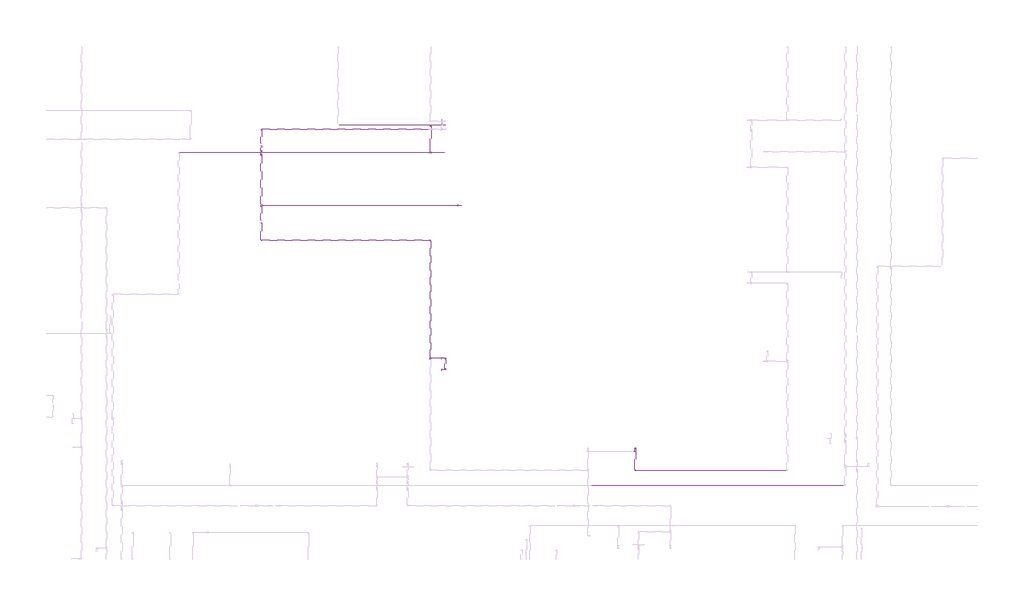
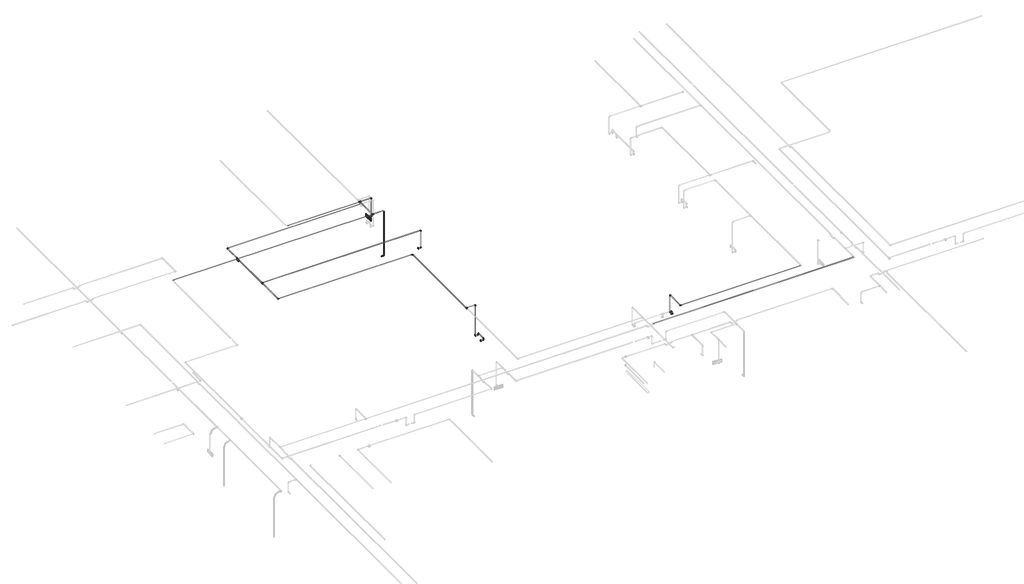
# One storey, part 22 of 40: 36 cable carrier segments, 25 cable carrier fittings, 4 electric appliances, 1 alarm.
"""IFC4 building model written with IfcOpenShell, lengths in millimetres."""

from ifc_helpers import new_model, si_unit, point, frame, frame_2d, origin, place, context, project, spatial, circle_curve, trimmed, segment, composite_curve, outline, extrude, transform, mapped, element, save
from components import alarm_4b7e8fd8, cable_carrier_fitting_69f1a801, cable_carrier_fitting_8404fc2a, cable_carrier_fitting_8fd13dfc, electric_appliance_5961a143

model = new_model("IFC4")

# Units and contexts
model_context = context("Model", 3, world=origin())
ifc_project = project(units=[si_unit("LENGTHUNIT", "METRE", prefix="MILLI")], contexts=[model_context])

# Site, building, storey
site = spatial("IfcSite", under=ifc_project)
building = spatial("IfcBuilding", under=site)
storey = spatial("IfcBuildingStorey", under=building, Name="1 этаж", Elevation=0.0)

# Alarm
placement = place(None, origin())
alarm_shape = alarm_4b7e8fd8(model_context)
element("IfcAlarm", 1, ObjectType="RBZ_Оповещатель_Световой_Рубеж_ОПОП1-R3(грань) : ОПОП 1-R3 \"Выход\"", at=placement, inside=storey, context=model_context, shape_type="MappedRepresentation", body=[
    mapped(alarm_shape, transform((-25412.3240021, 15927.1370105, 2500.0), x_axis=(0.0, -1.0, 0.0), y_axis=(0.0, 0.0, 1.0), z_axis=(-1.0, 0.0, 0.0))),
])

# Cable carrier fittings
cable_carrier_fitting_shape = cable_carrier_fitting_69f1a801(model_context)
element("IfcCableCarrierFitting", 2, ObjectType="ADSK_Поворот_Минимальный размер : Неспецифицируемый", at=placement, inside=storey, context=model_context, shape_type="MappedRepresentation", body=[
    mapped(cable_carrier_fitting_shape, transform((-25315.1241965, 15927.1370105, 2500.0), x_axis=(1.0, 0.0, 0.0), y_axis=(0.0, 0.0, 1.0), z_axis=(0.0, -1.0, 0.0))),
])
element("IfcCableCarrierFitting", 3, ObjectType="ADSK_Поворот_Минимальный размер : Неспецифицируемый", at=placement, inside=storey, context=model_context, shape_type="MappedRepresentation", body=[
    mapped(cable_carrier_fitting_shape, transform((-25315.1241965, 15147.1370105, 1500.0), x_axis=(1.0, 0.0, 0.0), y_axis=(0.0, 0.0, 1.0), z_axis=(0.0, -1.0, 0.0))),
])
element("IfcCableCarrierFitting", 4, ObjectType="ADSK_Поворот_Минимальный размер : Неспецифицируемый", at=placement, inside=storey, context=model_context, shape_type="MappedRepresentation", body=[
    mapped(cable_carrier_fitting_shape, transform((-30532.3240021, 15809.6370105, 3187.0), x_axis=(-1.0, 0.0, 0.0), y_axis=(0.0, -1.0, 0.0), z_axis=(0.0, 0.0, 1.0))),
])
element("IfcCableCarrierFitting", 5, ObjectType="ADSK_Поворот_Минимальный размер : Неспецифицируемый", at=placement, inside=storey, context=model_context, shape_type="MappedRepresentation", body=[
    mapped(cable_carrier_fitting_shape, transform((-30532.3240021, 15100.0328678, 3120.0), x_axis=(0.0, -1.0, 0.0), y_axis=(0.0, 0.0, 1.0), z_axis=(-1.0, 0.0, 0.0))),
])
element("IfcCableCarrierFitting", 6, ObjectType="ADSK_Поворот_Минимальный размер : Неспецифицируемый", at=placement, inside=storey, context=model_context, shape_type="MappedRepresentation", body=[
    mapped(cable_carrier_fitting_shape, transform((-30532.3240021, 15100.0328678, 3187.0), x_axis=(0.0, 0.0, 1.0), y_axis=(0.0, -1.0, 0.0), z_axis=(1.0, 0.0, 0.0))),
])
element("IfcCableCarrierFitting", 7, ObjectType="ADSK_Поворот_Минимальный размер : Неспецифицируемый", at=placement, inside=storey, context=model_context, shape_type="MappedRepresentation", body=[
    mapped(cable_carrier_fitting_shape, transform((-30532.3240021, 15199.8830622, 3120.0), x_axis=(0.0, 1.0, 0.0), y_axis=(0.0, 0.0, 1.0), z_axis=(1.0, 0.0, 0.0))),
])
element("IfcCableCarrierFitting", 8, ObjectType="ADSK_Поворот_Минимальный размер : Неспецифицируемый", at=placement, inside=storey, context=model_context, shape_type="MappedRepresentation", body=[
    mapped(cable_carrier_fitting_shape, transform((-30532.3240021, 15199.8830622, 3187.0), x_axis=(0.0, 0.0, 1.0), y_axis=(0.0, 1.0, 0.0), z_axis=(-1.0, 0.0, 0.0))),
])
element("IfcCableCarrierFitting", 9, ObjectType="ADSK_Поворот_Минимальный размер : Неспецифицируемый", at=placement, inside=storey, context=model_context, shape_type="MappedRepresentation", body=[
    mapped(cable_carrier_fitting_shape, transform((-24858.1241965, 13652.1370105, 2535.0911237), x_axis=(1.0, 0.0, 0.0), y_axis=(0.0, 0.0, 1.0), z_axis=(0.0, -1.0, 0.0))),
])
element("IfcCableCarrierFitting", 10, ObjectType="ADSK_Поворот_Минимальный размер : Неспецифицируемый", at=placement, inside=storey, context=model_context, shape_type="MappedRepresentation", body=[
    mapped(cable_carrier_fitting_shape, transform((-24858.1241965, 13652.1370105, 3187.0), x_axis=(0.0, 0.0, 1.0), y_axis=(-1.0, 0.0, 0.0), z_axis=(0.0, -1.0, 0.0))),
])
element("IfcCableCarrierFitting", 11, ObjectType="ADSK_Поворот_Минимальный размер : Неспецифицируемый", at=placement, inside=storey, context=model_context, shape_type="MappedRepresentation", body=[
    mapped(cable_carrier_fitting_shape, transform((-30532.3240021, 12662.1752277, 3187.0), x_axis=(0.0, -1.0, 0.0), y_axis=(1.0, 0.0, 0.0), z_axis=(0.0, 0.0, 1.0))),
])
element("IfcCableCarrierFitting", 12, ObjectType="ADSK_Поворот_Минимальный размер : Неспецифицируемый", at=placement, inside=storey, context=model_context, shape_type="MappedRepresentation", body=[
    mapped(cable_carrier_fitting_shape, transform((-19932.3240021, 6678.6370105, 2650.0), x_axis=(0.0, 0.0, 1.0), y_axis=(-1.0, 0.0, 0.0), z_axis=(0.0, -1.0, 0.0))),
])
element("IfcCableCarrierFitting", 13, ObjectType="ADSK_Поворот_Минимальный размер : Неспецифицируемый", at=placement, inside=storey, context=model_context, shape_type="MappedRepresentation", body=[
    mapped(cable_carrier_fitting_shape, transform((-19932.3240021, 6778.8368161, 2534.0911237), x_axis=(0.0, 1.0, 0.0), y_axis=(0.0, 0.0, 1.0), z_axis=(1.0, 0.0, 0.0))),
])
element("IfcCableCarrierFitting", 14, ObjectType="ADSK_Поворот_Минимальный размер : Неспецифицируемый", at=placement, inside=storey, context=model_context, shape_type="MappedRepresentation", body=[
    mapped(cable_carrier_fitting_shape, transform((-19932.3240021, 6778.8368161, 3187.0), x_axis=(0.0, 0.0, 1.0), y_axis=(0.0, -1.0, 0.0), z_axis=(1.0, 0.0, 0.0))),
])
element("IfcCableCarrierFitting", 15, ObjectType="ADSK_Поворот_Минимальный размер : Неспецифицируемый", at=placement, inside=storey, context=model_context, shape_type="MappedRepresentation", body=[
    mapped(cable_carrier_fitting_shape, transform((-19932.3240021, 6137.38701, 3187.0), x_axis=(0.0, -1.0, 0.0), y_axis=(1.0, 0.0, 0.0), z_axis=(0.0, 0.0, 1.0))),
])
element("IfcCableCarrierFitting", 16, ObjectType="ADSK_Поворот_Минимальный размер : Неспецифицируемый", at=placement, inside=storey, context=model_context, shape_type="MappedRepresentation", body=[
    mapped(cable_carrier_fitting_shape, transform((-25315.1241965, 9324.1370105, 2028.0911237), x_axis=(1.0, 0.0, 0.0), y_axis=(0.0, 0.0, 1.0), z_axis=(0.0, -1.0, 0.0))),
])
element("IfcCableCarrierFitting", 17, ObjectType="ADSK_Поворот_Минимальный размер : Неспецифицируемый", at=placement, inside=storey, context=model_context, shape_type="MappedRepresentation", body=[
    mapped(cable_carrier_fitting_shape, transform((-25315.1241965, 8997.1780096, 2028.0911237), x_axis=(1.0, 0.0, 0.0), y_axis=(0.0, 0.0, 1.0), z_axis=(0.0, -1.0, 0.0))),
])
element("IfcCableCarrierFitting", 18, ObjectType="ADSK_Поворот_Минимальный размер : Неспецифицируемый", at=placement, inside=storey, context=model_context, shape_type="MappedRepresentation", body=[
    mapped(cable_carrier_fitting_shape, transform((-25315.1241965, 8997.1780096, 2100.0), x_axis=(0.0, 0.0, 1.0), y_axis=(-0.019499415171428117, 0.99980986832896, 0.0), z_axis=(-0.99980986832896, -0.019499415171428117, 0.0))),
])
element("IfcCableCarrierFitting", 19, ObjectType="ADSK_Поворот_Минимальный размер : Неспецифицируемый", at=placement, inside=storey, context=model_context, shape_type="MappedRepresentation", body=[
    mapped(cable_carrier_fitting_shape, transform((-25315.1241965, 9324.1370105, 2100.0), x_axis=(0.0, 0.0, 1.0), y_axis=(0.01949941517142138, -0.9998098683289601, 0.0), z_axis=(0.9998098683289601, 0.01949941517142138, 0.0))),
])
element("IfcCableCarrierFitting", 20, ObjectType="ADSK_Поворот_Минимальный размер : Неспецифицируемый", at=placement, inside=storey, context=model_context, shape_type="MappedRepresentation", body=[
    mapped(cable_carrier_fitting_shape, transform((-25415.3240021, 9324.1370105, 3187.0), x_axis=(0.0, 0.0, 1.0), y_axis=(-1.0, 0.0, 0.0), z_axis=(0.0, -1.0, 0.0))),
])
element("IfcCableCarrierFitting", 21, ObjectType="ADSK_Поворот_Минимальный размер : Неспецифицируемый", at=placement, inside=storey, context=model_context, shape_type="MappedRepresentation", body=[
    mapped(cable_carrier_fitting_shape, transform((-25737.3231226, 12662.1752277, 3187.0), x_axis=(0.0, 1.0, 0.0), y_axis=(-1.0, 0.0, 0.0), z_axis=(0.0, 0.0, 1.0))),
])
cable_carrier_fitting_2_shape = cable_carrier_fitting_8404fc2a(model_context)
element("IfcCableCarrierFitting", 22, ObjectType="ADSK_Поворот_Минимальный размер : Неспецифицируемый", at=placement, inside=storey, context=model_context, shape_type="MappedRepresentation", body=[
    mapped(cable_carrier_fitting_2_shape, transform((-25315.1241965, 15927.1370105, 3190.000908), x_axis=(0.0, 0.0, 1.0), y_axis=(-1.0, 0.0, 0.0), z_axis=(0.0, -1.0, 0.0))),
])
cable_carrier_fitting_3_shape = cable_carrier_fitting_8fd13dfc(model_context)
element("IfcCableCarrierFitting", 23, ObjectType="ADSK_Тройник : ПВХ", at=placement, inside=storey, context=model_context, shape_type="MappedRepresentation", body=[
    mapped(cable_carrier_fitting_3_shape, transform((-25727.3240021, 15147.1369864, 3189.9843831), x_axis=(-1.0, 0.0, 0.0), y_axis=(0.0, -1.0, 0.0), z_axis=(0.0, 0.0, 1.0))),
])
element("IfcCableCarrierFitting", 24, ObjectType="ADSK_Тройник : ПВХ", at=placement, inside=storey, context=model_context, shape_type="MappedRepresentation", body=[
    mapped(cable_carrier_fitting_3_shape, transform((-25727.3240021, 15927.1370105, 3189.9843831), x_axis=(1.0, 0.0, 0.0), y_axis=(0.0, 1.0, 0.0), z_axis=(0.0, 0.0, 1.0))),
])
element("IfcCableCarrierFitting", 25, ObjectType="ADSK_Тройник : ПВХ", at=placement, inside=storey, context=model_context, shape_type="MappedRepresentation", body=[
    mapped(cable_carrier_fitting_3_shape, transform((-30532.3240021, 13652.1370105, 3187.0), x_axis=(0.0, 1.0, 0.0), y_axis=(-1.0, 0.0, 0.0), z_axis=(0.0, 0.0, 1.0))),
])
element("IfcCableCarrierFitting", 26, ObjectType="ADSK_Тройник : ПВХ", at=placement, inside=storey, context=model_context, shape_type="MappedRepresentation", body=[
    mapped(cable_carrier_fitting_3_shape, transform((-25737.3231226, 9324.1370105, 3187.0), x_axis=(0.0, 1.0, 0.0), y_axis=(-1.0, 0.0, 0.0), z_axis=(0.0, 0.0, 1.0))),
])

# Cable carrier segments
element("IfcCableCarrierSegment", 27, ObjectType="Гофрированная труба", at=placement, inside=storey, context=model_context, shape_type="SweptSolid", body=[
    extrude(outline(composite_curve([segment(trimmed(circle_curve(frame_2d((15927.1370105, 3189.9843831)), 10.0), [point((15937.1370105, 3189.9843831))], [point((15927.1370105, 3179.9843831))], False, "CARTESIAN"), True, "CONTINUOUS"), segment(trimmed(circle_curve(frame_2d((15927.1370105, 3189.9843831)), 10.0), [point((15927.1370105, 3179.9843831))], [point((15917.1370105, 3189.9843831))], False, "CARTESIAN"), True, "CONTINUOUS"), segment(trimmed(circle_curve(frame_2d((15927.1370105, 3189.9843831)), 10.0), [point((15917.1370105, 3189.9843831))], [point((15927.1370105, 3199.9843831))], False, "CARTESIAN"), True, "CONTINUOUS"), segment(trimmed(circle_curve(frame_2d((15927.1370105, 3189.9843831)), 10.0), [point((15927.1370105, 3199.9843831))], [point((15937.1370105, 3189.9843831))], False, "CARTESIAN"), True, "CONTINUOUS")], self_intersect=False)), frame((-28305.8240021, 0.0, 0.0), z_axis=(1.0, 0.0, 0.0), x_axis=(0.0, 1.0, 0.0)), (0.0, 0.0, 1.0), 2548.5),
])
element("IfcCableCarrierSegment", 28, ObjectType="Гофрированная труба", at=placement, inside=storey, context=model_context, shape_type="SweptSolid", body=[
    extrude(outline(composite_curve([segment(trimmed(circle_curve(frame_2d((3189.9843831, -25727.3240021)), 10.0), [point((3189.9843831, -25737.3240021))], [point((3179.9843831, -25727.3240021))], False, "CARTESIAN"), True, "CONTINUOUS"), segment(trimmed(circle_curve(frame_2d((3189.9843831, -25727.3240021)), 10.0), [point((3179.9843831, -25727.3240021))], [point((3189.9843831, -25717.3240021))], False, "CARTESIAN"), True, "CONTINUOUS"), segment(trimmed(circle_curve(frame_2d((3189.9843831, -25727.3240021)), 10.0), [point((3189.9843831, -25717.3240021))], [point((3199.9843831, -25727.3240021))], False, "CARTESIAN"), True, "CONTINUOUS"), segment(trimmed(circle_curve(frame_2d((3189.9843831, -25727.3240021)), 10.0), [point((3199.9843831, -25727.3240021))], [point((3189.9843831, -25737.3240021))], False, "CARTESIAN"), True, "CONTINUOUS")], self_intersect=False)), frame((0.0, 15177.1369864, 0.0), z_axis=(0.0, 1.0, 0.0), x_axis=(0.0, 0.0, 1.0)), (0.0, 0.0, 1.0), 720.0000241),
])
element("IfcCableCarrierSegment", 29, ObjectType="Гофрированная труба", at=placement, inside=storey, context=model_context, shape_type="SweptSolid", body=[
    extrude(outline(composite_curve([segment(trimmed(circle_curve(frame_2d((15147.1369864, 3189.9843831)), 10.0), [point((15157.1369864, 3189.9843831))], [point((15147.1369864, 3179.9843831))], False, "CARTESIAN"), True, "CONTINUOUS"), segment(trimmed(circle_curve(frame_2d((15147.1369864, 3189.9843831)), 10.0), [point((15147.1369864, 3179.9843831))], [point((15137.1369864, 3189.9843831))], False, "CARTESIAN"), True, "CONTINUOUS"), segment(trimmed(circle_curve(frame_2d((15147.1369864, 3189.9843831)), 10.0), [point((15137.1369864, 3189.9843831))], [point((15147.1369864, 3199.9843831))], False, "CARTESIAN"), True, "CONTINUOUS"), segment(trimmed(circle_curve(frame_2d((15147.1369864, 3189.9843831)), 10.0), [point((15147.1369864, 3199.9843831))], [point((15157.1369864, 3189.9843831))], False, "CARTESIAN"), True, "CONTINUOUS")], self_intersect=False)), frame((-32846.3240048, 0.0, 0.0), z_axis=(1.0, 0.0, 0.0), x_axis=(0.0, 1.0, 0.0)), (0.0, 0.0, 1.0), 7089.0000027),
])
element("IfcCableCarrierSegment", 30, ObjectType="Гофрированная труба", at=placement, inside=storey, context=model_context, shape_type="SweptSolid", body=[
    extrude(outline(composite_curve([segment(trimmed(circle_curve(frame_2d((0.0, 10.0)), 10.0), [point((-10.0, 10.0))], [point((0.0, 20.0))], False, "CARTESIAN"), True, "CONTINUOUS"), segment(trimmed(circle_curve(frame_2d((0.0, 10.0)), 10.0), [point((0.0, 20.0))], [point((10.0, 10.0))], False, "CARTESIAN"), True, "CONTINUOUS"), segment(trimmed(circle_curve(frame_2d((0.0, 10.0)), 10.0), [point((10.0, 10.0))], [point((0.0, 0.0))], False, "CARTESIAN"), True, "CONTINUOUS"), segment(trimmed(circle_curve(frame_2d((0.0, 10.0)), 10.0), [point((0.0, 0.0))], [point((-10.0, 10.0))], False, "CARTESIAN"), True, "CONTINUOUS")], self_intersect=False)), frame((-25697.3235697, 15927.1370105, 3179.9843831), z_axis=(0.9999999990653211, 0.0, 4.3236071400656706e-05), x_axis=(0.0, 1.0, 0.0)), (0.0, 0.0, 1.0), 361.1989412),
])
element("IfcCableCarrierSegment", 31, ObjectType="Гофрированная труба", at=placement, inside=storey, context=model_context, shape_type="SweptSolid", body=[
    extrude(outline(composite_curve([segment(trimmed(circle_curve(frame_2d((15927.1370105, 2500.0)), 10.0), [point((15917.1370105, 2500.0))], [point((15927.1370105, 2510.0))], False, "CARTESIAN"), True, "CONTINUOUS"), segment(trimmed(circle_curve(frame_2d((15927.1370105, 2500.0)), 10.0), [point((15927.1370105, 2510.0))], [point((15937.1370105, 2500.0))], False, "CARTESIAN"), True, "CONTINUOUS"), segment(trimmed(circle_curve(frame_2d((15927.1370105, 2500.0)), 10.0), [point((15937.1370105, 2500.0))], [point((15927.1370105, 2490.0))], False, "CARTESIAN"), True, "CONTINUOUS"), segment(trimmed(circle_curve(frame_2d((15927.1370105, 2500.0)), 10.0), [point((15927.1370105, 2490.0))], [point((15917.1370105, 2500.0))], False, "CARTESIAN"), True, "CONTINUOUS")], self_intersect=False)), frame((-25412.3240021, 0.0, 0.0), z_axis=(1.0, 0.0, 0.0), x_axis=(0.0, 1.0, 0.0)), (0.0, 0.0, 1.0), 76.1998056),
])
element("IfcCableCarrierSegment", 32, ObjectType="Гофрированная труба", at=placement, inside=storey, context=model_context, shape_type="SweptSolid", body=[
    extrude(outline(composite_curve([segment(trimmed(circle_curve(frame_2d((-25315.1241965, 15927.1370105)), 10.0), [point((-25325.1241965, 15927.1370105))], [point((-25315.1241965, 15937.1370105))], False, "CARTESIAN"), True, "CONTINUOUS"), segment(trimmed(circle_curve(frame_2d((-25315.1241965, 15927.1370105)), 10.0), [point((-25315.1241965, 15937.1370105))], [point((-25305.1241965, 15927.1370105))], False, "CARTESIAN"), True, "CONTINUOUS"), segment(trimmed(circle_curve(frame_2d((-25315.1241965, 15927.1370105)), 10.0), [point((-25305.1241965, 15927.1370105))], [point((-25315.1241965, 15917.1370105))], False, "CARTESIAN"), True, "CONTINUOUS"), segment(trimmed(circle_curve(frame_2d((-25315.1241965, 15927.1370105)), 10.0), [point((-25315.1241965, 15917.1370105))], [point((-25325.1241965, 15927.1370105))], False, "CARTESIAN"), True, "CONTINUOUS")], self_intersect=False)), frame((0.0, 0.0, 2521.0), z_axis=(0.0, 0.0, 1.0), x_axis=(1.0, 0.0, 0.0)), (0.0, 0.0, 1.0), 648.0000432),
])
element("IfcCableCarrierSegment", 33, ObjectType="Гофрированная труба", at=placement, inside=storey, context=model_context, shape_type="SweptSolid", body=[
    extrude(outline(composite_curve([segment(trimmed(circle_curve(frame_2d((0.0, 10.0)), 10.0), [point((-10.0, 10.0))], [point((0.0, 20.0))], False, "CARTESIAN"), True, "CONTINUOUS"), segment(trimmed(circle_curve(frame_2d((0.0, 10.0)), 10.0), [point((0.0, 20.0))], [point((10.0, 10.0))], False, "CARTESIAN"), True, "CONTINUOUS"), segment(trimmed(circle_curve(frame_2d((0.0, 10.0)), 10.0), [point((10.0, 10.0))], [point((0.0, 0.0))], False, "CARTESIAN"), True, "CONTINUOUS"), segment(trimmed(circle_curve(frame_2d((0.0, 10.0)), 10.0), [point((0.0, 0.0))], [point((-10.0, 10.0))], False, "CARTESIAN"), True, "CONTINUOUS")], self_intersect=False)), frame((-25697.3235697, 15147.1369864, 3179.9843831), z_axis=(0.9999999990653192, 6.229485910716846e-08, 4.323607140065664e-05), x_axis=(-6.229485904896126e-08, 0.9999999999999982, -2.692956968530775e-12)), (0.0, 0.0, 1.0), 361.1989412),
])
element("IfcCableCarrierSegment", 34, ObjectType="Гофрированная труба", at=placement, inside=storey, context=model_context, shape_type="SweptSolid", body=[
    extrude(outline(composite_curve([segment(trimmed(circle_curve(frame_2d((15147.1370105, 1500.0)), 10.0), [point((15137.1370105, 1500.0))], [point((15147.1370105, 1510.0))], False, "CARTESIAN"), True, "CONTINUOUS"), segment(trimmed(circle_curve(frame_2d((15147.1370105, 1500.0)), 10.0), [point((15147.1370105, 1510.0))], [point((15157.1370105, 1500.0))], False, "CARTESIAN"), True, "CONTINUOUS"), segment(trimmed(circle_curve(frame_2d((15147.1370105, 1500.0)), 10.0), [point((15157.1370105, 1500.0))], [point((15147.1370105, 1490.0))], False, "CARTESIAN"), True, "CONTINUOUS"), segment(trimmed(circle_curve(frame_2d((15147.1370105, 1500.0)), 10.0), [point((15147.1370105, 1490.0))], [point((15137.1370105, 1500.0))], False, "CARTESIAN"), True, "CONTINUOUS")], self_intersect=False)), frame((-25412.3240021, 0.0, 0.0), z_axis=(1.0, 0.0, 0.0), x_axis=(0.0, 1.0, 0.0)), (0.0, 0.0, 1.0), 76.1998056),
])
element("IfcCableCarrierSegment", 35, ObjectType="Гофрированная труба", at=placement, inside=storey, context=model_context, shape_type="SweptSolid", body=[
    extrude(outline(composite_curve([segment(trimmed(circle_curve(frame_2d((0.0, 10.0)), 10.0), [point((-10.0, 10.0))], [point((0.0, 20.0))], False, "CARTESIAN"), True, "CONTINUOUS"), segment(trimmed(circle_curve(frame_2d((0.0, 10.0)), 10.0), [point((0.0, 20.0))], [point((10.0, 10.0))], False, "CARTESIAN"), True, "CONTINUOUS"), segment(trimmed(circle_curve(frame_2d((0.0, 10.0)), 10.0), [point((10.0, 10.0))], [point((0.0, 0.0))], False, "CARTESIAN"), True, "CONTINUOUS"), segment(trimmed(circle_curve(frame_2d((0.0, 10.0)), 10.0), [point((0.0, 0.0))], [point((-10.0, 10.0))], False, "CARTESIAN"), True, "CONTINUOUS")], self_intersect=False)), frame((-25315.1241965, 15137.1370105, 1521.0), z_axis=(0.0, -1.824901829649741e-10, 1.0), x_axis=(1.0, 0.0, 0.0)), (0.0, 0.0, 1.0), 1648.0000432),
])
element("IfcCableCarrierSegment", 36, ObjectType="Гофрированная труба", at=placement, inside=storey, context=model_context, shape_type="SweptSolid", body=[
    extrude(outline(composite_curve([segment(trimmed(circle_curve(frame_2d((15809.6370105, 3187.0)), 10.0), [point((15799.6370105, 3187.0))], [point((15809.6370105, 3197.0))], False, "CARTESIAN"), True, "CONTINUOUS"), segment(trimmed(circle_curve(frame_2d((15809.6370105, 3187.0)), 10.0), [point((15809.6370105, 3197.0))], [point((15819.6370105, 3187.0))], False, "CARTESIAN"), True, "CONTINUOUS"), segment(trimmed(circle_curve(frame_2d((15809.6370105, 3187.0)), 10.0), [point((15819.6370105, 3187.0))], [point((15809.6370105, 3177.0))], False, "CARTESIAN"), True, "CONTINUOUS"), segment(trimmed(circle_curve(frame_2d((15809.6370105, 3187.0)), 10.0), [point((15809.6370105, 3177.0))], [point((15799.6370105, 3187.0))], False, "CARTESIAN"), True, "CONTINUOUS")], self_intersect=False)), frame((-30511.3240021, 0.0, 0.0), z_axis=(1.0, 0.0, 0.0), x_axis=(0.0, 1.0, 0.0)), (0.0, 0.0, 1.0), 4727.6998056),
])
element("IfcCableCarrierSegment", 37, ObjectType="Гофрированная труба", at=placement, inside=storey, context=model_context, shape_type="SweptSolid", body=[
    extrude(outline(composite_curve([segment(trimmed(circle_curve(frame_2d((3187.0, -30532.3240021)), 10.0), [point((3187.0, -30522.3240021))], [point((3197.0, -30532.3240021))], False, "CARTESIAN"), True, "CONTINUOUS"), segment(trimmed(circle_curve(frame_2d((3187.0, -30532.3240021)), 10.0), [point((3197.0, -30532.3240021))], [point((3187.0, -30542.3240021))], False, "CARTESIAN"), True, "CONTINUOUS"), segment(trimmed(circle_curve(frame_2d((3187.0, -30532.3240021)), 10.0), [point((3187.0, -30542.3240021))], [point((3177.0, -30532.3240021))], False, "CARTESIAN"), True, "CONTINUOUS"), segment(trimmed(circle_curve(frame_2d((3187.0, -30532.3240021)), 10.0), [point((3177.0, -30532.3240021))], [point((3187.0, -30522.3240021))], False, "CARTESIAN"), True, "CONTINUOUS")], self_intersect=False)), frame((0.0, 15409.9946506, 0.0), z_axis=(0.0, 1.0, 0.0), x_axis=(0.0, 0.0, 1.0)), (0.0, 0.0, 1.0), 378.6423599),
])
element("IfcCableCarrierSegment", 38, ObjectType="Гофрированная труба", at=placement, inside=storey, context=model_context, shape_type="SweptSolid", body=[
    extrude(outline(composite_curve([segment(trimmed(circle_curve(frame_2d((3120.0, -30532.3240021)), 10.0), [point((3120.0, -30542.3240021))], [point((3110.0, -30532.3240021))], False, "CARTESIAN"), True, "CONTINUOUS"), segment(trimmed(circle_curve(frame_2d((3120.0, -30532.3240021)), 10.0), [point((3110.0, -30532.3240021))], [point((3120.0, -30522.3240021))], False, "CARTESIAN"), True, "CONTINUOUS"), segment(trimmed(circle_curve(frame_2d((3120.0, -30532.3240021)), 10.0), [point((3120.0, -30522.3240021))], [point((3130.0, -30532.3240021))], False, "CARTESIAN"), True, "CONTINUOUS"), segment(trimmed(circle_curve(frame_2d((3120.0, -30532.3240021)), 10.0), [point((3130.0, -30532.3240021))], [point((3120.0, -30542.3240021))], False, "CARTESIAN"), True, "CONTINUOUS")], self_intersect=False)), frame((0.0, 15121.0328678, 0.0), z_axis=(0.0, 1.0, 0.0), x_axis=(0.0, 0.0, 1.0)), (0.0, 0.0, 1.0), 57.8501944),
])
element("IfcCableCarrierSegment", 39, ObjectType="Гофрированная труба", at=placement, inside=storey, context=model_context, shape_type="SweptSolid", body=[
    extrude(outline(composite_curve([segment(trimmed(circle_curve(frame_2d((3187.0, -30532.3240021)), 10.0), [point((3187.0, -30542.3240021))], [point((3177.0, -30532.3240021))], False, "CARTESIAN"), True, "CONTINUOUS"), segment(trimmed(circle_curve(frame_2d((3187.0, -30532.3240021)), 10.0), [point((3177.0, -30532.3240021))], [point((3187.0, -30522.3240021))], False, "CARTESIAN"), True, "CONTINUOUS"), segment(trimmed(circle_curve(frame_2d((3187.0, -30532.3240021)), 10.0), [point((3187.0, -30522.3240021))], [point((3197.0, -30532.3240021))], False, "CARTESIAN"), True, "CONTINUOUS"), segment(trimmed(circle_curve(frame_2d((3187.0, -30532.3240021)), 10.0), [point((3197.0, -30532.3240021))], [point((3187.0, -30542.3240021))], False, "CARTESIAN"), True, "CONTINUOUS")], self_intersect=False)), frame((0.0, 13227.1370105, 0.0), z_axis=(0.0, 1.0, 0.0), x_axis=(0.0, 0.0, 1.0)), (0.0, 0.0, 1.0), 395.0),
])
element("IfcCableCarrierSegment", 40, ObjectType="Гофрированная труба", at=placement, inside=storey, context=model_context, shape_type="SweptSolid", body=[
    extrude(outline(composite_curve([segment(trimmed(circle_curve(frame_2d((0.0, 10.0)), 10.0), [point((-10.0, 10.0))], [point((0.0, 20.0))], False, "CARTESIAN"), True, "CONTINUOUS"), segment(trimmed(circle_curve(frame_2d((0.0, 10.0)), 10.0), [point((0.0, 20.0))], [point((10.0, 10.0))], False, "CARTESIAN"), True, "CONTINUOUS"), segment(trimmed(circle_curve(frame_2d((0.0, 10.0)), 10.0), [point((10.0, 10.0))], [point((0.0, 0.0))], False, "CARTESIAN"), True, "CONTINUOUS"), segment(trimmed(circle_curve(frame_2d((0.0, 10.0)), 10.0), [point((0.0, 0.0))], [point((-10.0, 10.0))], False, "CARTESIAN"), True, "CONTINUOUS")], self_intersect=False)), frame((-30532.3240021, 15090.0328678, 3141.0), z_axis=(0.0, 1.0287237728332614e-12, 1.0), x_axis=(1.0, 0.0, 0.0)), (0.0, 0.0, 1.0), 25.0),
])
element("IfcCableCarrierSegment", 41, ObjectType="Гофрированная труба", at=placement, inside=storey, context=model_context, shape_type="SweptSolid", body=[
    extrude(outline(composite_curve([segment(trimmed(circle_curve(frame_2d((3187.0, -30532.3240021)), 10.0), [point((3187.0, -30522.3240021))], [point((3197.0, -30532.3240021))], False, "CARTESIAN"), True, "CONTINUOUS"), segment(trimmed(circle_curve(frame_2d((3187.0, -30532.3240021)), 10.0), [point((3197.0, -30532.3240021))], [point((3187.0, -30542.3240021))], False, "CARTESIAN"), True, "CONTINUOUS"), segment(trimmed(circle_curve(frame_2d((3187.0, -30532.3240021)), 10.0), [point((3187.0, -30542.3240021))], [point((3177.0, -30532.3240021))], False, "CARTESIAN"), True, "CONTINUOUS"), segment(trimmed(circle_curve(frame_2d((3187.0, -30532.3240021)), 10.0), [point((3177.0, -30532.3240021))], [point((3187.0, -30522.3240021))], False, "CARTESIAN"), True, "CONTINUOUS")], self_intersect=False)), frame((0.0, 15220.8830622, 0.0), z_axis=(0.0, 1.0, 0.0), x_axis=(0.0, 0.0, 1.0)), (0.0, 0.0, 1.0), 124.1498056),
])
element("IfcCableCarrierSegment", 42, ObjectType="Гофрированная труба", at=placement, inside=storey, context=model_context, shape_type="SweptSolid", body=[
    extrude(outline(composite_curve([segment(trimmed(circle_curve(frame_2d((-30532.3240021, 15199.8830622)), 10.0), [point((-30542.3240021, 15199.8830622))], [point((-30532.3240021, 15209.8830622))], False, "CARTESIAN"), True, "CONTINUOUS"), segment(trimmed(circle_curve(frame_2d((-30532.3240021, 15199.8830622)), 10.0), [point((-30532.3240021, 15209.8830622))], [point((-30522.3240021, 15199.8830622))], False, "CARTESIAN"), True, "CONTINUOUS"), segment(trimmed(circle_curve(frame_2d((-30532.3240021, 15199.8830622)), 10.0), [point((-30522.3240021, 15199.8830622))], [point((-30532.3240021, 15189.8830622))], False, "CARTESIAN"), True, "CONTINUOUS"), segment(trimmed(circle_curve(frame_2d((-30532.3240021, 15199.8830622)), 10.0), [point((-30532.3240021, 15189.8830622))], [point((-30542.3240021, 15199.8830622))], False, "CARTESIAN"), True, "CONTINUOUS")], self_intersect=False)), frame((0.0, 0.0, 3141.0), z_axis=(0.0, 0.0, 1.0), x_axis=(1.0, 0.0, 0.0)), (0.0, 0.0, 1.0), 25.0),
])
element("IfcCableCarrierSegment", 43, ObjectType="Гофрированная труба", at=placement, inside=storey, context=model_context, shape_type="SweptSolid", body=[
    extrude(outline(composite_curve([segment(trimmed(circle_curve(frame_2d((3187.0, -30532.3240021)), 10.0), [point((3187.0, -30542.3240021))], [point((3177.0, -30532.3240021))], False, "CARTESIAN"), True, "CONTINUOUS"), segment(trimmed(circle_curve(frame_2d((3187.0, -30532.3240021)), 10.0), [point((3177.0, -30532.3240021))], [point((3187.0, -30522.3240021))], False, "CARTESIAN"), True, "CONTINUOUS"), segment(trimmed(circle_curve(frame_2d((3187.0, -30532.3240021)), 10.0), [point((3187.0, -30522.3240021))], [point((3197.0, -30532.3240021))], False, "CARTESIAN"), True, "CONTINUOUS"), segment(trimmed(circle_curve(frame_2d((3187.0, -30532.3240021)), 10.0), [point((3197.0, -30532.3240021))], [point((3187.0, -30542.3240021))], False, "CARTESIAN"), True, "CONTINUOUS")], self_intersect=False)), frame((0.0, 12683.1752277, 0.0), z_axis=(0.0, 1.0, 0.0), x_axis=(0.0, 0.0, 1.0)), (0.0, 0.0, 1.0), 479.0),
])
element("IfcCableCarrierSegment", 44, ObjectType="Гофрированная труба", at=placement, inside=storey, context=model_context, shape_type="SweptSolid", body=[
    extrude(outline(composite_curve([segment(trimmed(circle_curve(frame_2d((13652.1370105, 3187.0)), 10.0), [point((13642.1370105, 3187.0))], [point((13652.1370105, 3197.0))], False, "CARTESIAN"), True, "CONTINUOUS"), segment(trimmed(circle_curve(frame_2d((13652.1370105, 3187.0)), 10.0), [point((13652.1370105, 3197.0))], [point((13662.1370105, 3187.0))], False, "CARTESIAN"), True, "CONTINUOUS"), segment(trimmed(circle_curve(frame_2d((13652.1370105, 3187.0)), 10.0), [point((13662.1370105, 3187.0))], [point((13652.1370105, 3177.0))], False, "CARTESIAN"), True, "CONTINUOUS"), segment(trimmed(circle_curve(frame_2d((13652.1370105, 3187.0)), 10.0), [point((13652.1370105, 3177.0))], [point((13642.1370105, 3187.0))], False, "CARTESIAN"), True, "CONTINUOUS")], self_intersect=False)), frame((-30502.3240021, 0.0, 0.0), z_axis=(1.0, 0.0, 0.0), x_axis=(0.0, 1.0, 0.0)), (0.0, 0.0, 1.0), 5623.1998056),
])
element("IfcCableCarrierSegment", 45, ObjectType="Гофрированная труба", at=placement, inside=storey, context=model_context, shape_type="SweptSolid", body=[
    extrude(outline(composite_curve([segment(trimmed(circle_curve(frame_2d((13652.1370105, 2535.0911237)), 10.0), [point((13642.1370105, 2535.0911237))], [point((13652.1370105, 2545.0911237))], False, "CARTESIAN"), True, "CONTINUOUS"), segment(trimmed(circle_curve(frame_2d((13652.1370105, 2535.0911237)), 10.0), [point((13652.1370105, 2545.0911237))], [point((13662.1370105, 2535.0911237))], False, "CARTESIAN"), True, "CONTINUOUS"), segment(trimmed(circle_curve(frame_2d((13652.1370105, 2535.0911237)), 10.0), [point((13662.1370105, 2535.0911237))], [point((13652.1370105, 2525.0911237))], False, "CARTESIAN"), True, "CONTINUOUS"), segment(trimmed(circle_curve(frame_2d((13652.1370105, 2535.0911237)), 10.0), [point((13652.1370105, 2525.0911237))], [point((13642.1370105, 2535.0911237))], False, "CARTESIAN"), True, "CONTINUOUS")], self_intersect=False)), frame((-24955.3240021, 0.0, 0.0), z_axis=(1.0, 0.0, 0.0), x_axis=(0.0, 1.0, 0.0)), (0.0, 0.0, 1.0), 76.1998056),
])
element("IfcCableCarrierSegment", 46, ObjectType="Гофрированная труба", at=placement, inside=storey, context=model_context, shape_type="SweptSolid", body=[
    extrude(outline(composite_curve([segment(trimmed(circle_curve(frame_2d((-24858.1241965, 13652.1370105)), 10.0), [point((-24868.1241965, 13652.1370105))], [point((-24858.1241965, 13662.1370105))], False, "CARTESIAN"), True, "CONTINUOUS"), segment(trimmed(circle_curve(frame_2d((-24858.1241965, 13652.1370105)), 10.0), [point((-24858.1241965, 13662.1370105))], [point((-24848.1241965, 13652.1370105))], False, "CARTESIAN"), True, "CONTINUOUS"), segment(trimmed(circle_curve(frame_2d((-24858.1241965, 13652.1370105)), 10.0), [point((-24848.1241965, 13652.1370105))], [point((-24858.1241965, 13642.1370105))], False, "CARTESIAN"), True, "CONTINUOUS"), segment(trimmed(circle_curve(frame_2d((-24858.1241965, 13652.1370105)), 10.0), [point((-24858.1241965, 13642.1370105))], [point((-24868.1241965, 13652.1370105))], False, "CARTESIAN"), True, "CONTINUOUS")], self_intersect=False)), frame((0.0, 0.0, 2556.0911237), z_axis=(0.0, 0.0, 1.0), x_axis=(1.0, 0.0, 0.0)), (0.0, 0.0, 1.0), 609.9088763),
])
element("IfcCableCarrierSegment", 47, ObjectType="Гофрированная труба", at=placement, inside=storey, context=model_context, shape_type="SweptSolid", body=[
    extrude(outline(composite_curve([segment(trimmed(circle_curve(frame_2d((3187.0, -30532.3240021)), 10.0), [point((3187.0, -30542.3240021))], [point((3177.0, -30532.3240021))], False, "CARTESIAN"), True, "CONTINUOUS"), segment(trimmed(circle_curve(frame_2d((3187.0, -30532.3240021)), 10.0), [point((3177.0, -30532.3240021))], [point((3187.0, -30522.3240021))], False, "CARTESIAN"), True, "CONTINUOUS"), segment(trimmed(circle_curve(frame_2d((3187.0, -30532.3240021)), 10.0), [point((3187.0, -30522.3240021))], [point((3197.0, -30532.3240021))], False, "CARTESIAN"), True, "CONTINUOUS"), segment(trimmed(circle_curve(frame_2d((3187.0, -30532.3240021)), 10.0), [point((3197.0, -30532.3240021))], [point((3187.0, -30542.3240021))], False, "CARTESIAN"), True, "CONTINUOUS")], self_intersect=False)), frame((0.0, 13682.1370105, 0.0), z_axis=(0.0, 1.0, 0.0), x_axis=(0.0, 0.0, 1.0)), (0.0, 0.0, 1.0), 1396.8958573),
])
element("IfcCableCarrierSegment", 48, ObjectType="Гофрированная труба", at=placement, inside=storey, context=model_context, shape_type="SweptSolid", body=[
    extrude(outline(composite_curve([segment(trimmed(circle_curve(frame_2d((12662.1752277, 3187.0)), 10.0), [point((12652.1752277, 3187.0))], [point((12662.1752277, 3197.0))], False, "CARTESIAN"), True, "CONTINUOUS"), segment(trimmed(circle_curve(frame_2d((12662.1752277, 3187.0)), 10.0), [point((12662.1752277, 3197.0))], [point((12672.1752277, 3187.0))], False, "CARTESIAN"), True, "CONTINUOUS"), segment(trimmed(circle_curve(frame_2d((12662.1752277, 3187.0)), 10.0), [point((12672.1752277, 3187.0))], [point((12662.1752277, 3177.0))], False, "CARTESIAN"), True, "CONTINUOUS"), segment(trimmed(circle_curve(frame_2d((12662.1752277, 3187.0)), 10.0), [point((12662.1752277, 3177.0))], [point((12652.1752277, 3187.0))], False, "CARTESIAN"), True, "CONTINUOUS")], self_intersect=False)), frame((-30511.3240021, 0.0, 0.0), z_axis=(1.0, 0.0, 0.0), x_axis=(0.0, 1.0, 0.0)), (0.0, 0.0, 1.0), 4753.0008795),
])
element("IfcCableCarrierSegment", 49, ObjectType="Гофрированная труба", at=placement, inside=storey, context=model_context, shape_type="SweptSolid", body=[
    extrude(outline(composite_curve([segment(trimmed(circle_curve(frame_2d((3187.0, -25737.3231226)), 10.0), [point((3187.0, -25747.3231226))], [point((3177.0, -25737.3231226))], False, "CARTESIAN"), True, "CONTINUOUS"), segment(trimmed(circle_curve(frame_2d((3187.0, -25737.3231226)), 10.0), [point((3177.0, -25737.3231226))], [point((3187.0, -25727.3231226))], False, "CARTESIAN"), True, "CONTINUOUS"), segment(trimmed(circle_curve(frame_2d((3187.0, -25737.3231226)), 10.0), [point((3187.0, -25727.3231226))], [point((3197.0, -25737.3231226))], False, "CARTESIAN"), True, "CONTINUOUS"), segment(trimmed(circle_curve(frame_2d((3187.0, -25737.3231226)), 10.0), [point((3197.0, -25737.3231226))], [point((3187.0, -25747.3231226))], False, "CARTESIAN"), True, "CONTINUOUS")], self_intersect=False)), frame((0.0, 9354.1370105, 0.0), z_axis=(0.0, 1.0, 0.0), x_axis=(0.0, 0.0, 1.0)), (0.0, 0.0, 1.0), 3287.0382172),
])
element("IfcCableCarrierSegment", 50, ObjectType="Гофрированная труба", at=placement, inside=storey, context=model_context, shape_type="SweptSolid", body=[
    extrude(outline(composite_curve([segment(trimmed(circle_curve(frame_2d((-19932.3240021, 6678.6370105)), 10.0), [point((-19942.3240021, 6678.6370105))], [point((-19932.3240021, 6688.6370105))], False, "CARTESIAN"), True, "CONTINUOUS"), segment(trimmed(circle_curve(frame_2d((-19932.3240021, 6678.6370105)), 10.0), [point((-19932.3240021, 6688.6370105))], [point((-19922.3240021, 6678.6370105))], False, "CARTESIAN"), True, "CONTINUOUS"), segment(trimmed(circle_curve(frame_2d((-19932.3240021, 6678.6370105)), 10.0), [point((-19922.3240021, 6678.6370105))], [point((-19932.3240021, 6668.6370105))], False, "CARTESIAN"), True, "CONTINUOUS"), segment(trimmed(circle_curve(frame_2d((-19932.3240021, 6678.6370105)), 10.0), [point((-19932.3240021, 6668.6370105))], [point((-19942.3240021, 6678.6370105))], False, "CARTESIAN"), True, "CONTINUOUS")], self_intersect=False)), frame((0.0, 0.0, 2563.1207114), z_axis=(0.0, 0.0, 1.0), x_axis=(1.0, 0.0, 0.0)), (0.0, 0.0, 1.0), 65.8792886),
])
element("IfcCableCarrierSegment", 51, ObjectType="Гофрированная труба", at=placement, inside=storey, context=model_context, shape_type="SweptSolid", body=[
    extrude(outline(composite_curve([segment(trimmed(circle_curve(frame_2d((3187.0, -19932.3240021)), 10.0), [point((3187.0, -19942.3240021))], [point((3177.0, -19932.3240021))], False, "CARTESIAN"), True, "CONTINUOUS"), segment(trimmed(circle_curve(frame_2d((3187.0, -19932.3240021)), 10.0), [point((3177.0, -19932.3240021))], [point((3187.0, -19922.3240021))], False, "CARTESIAN"), True, "CONTINUOUS"), segment(trimmed(circle_curve(frame_2d((3187.0, -19932.3240021)), 10.0), [point((3187.0, -19922.3240021))], [point((3197.0, -19932.3240021))], False, "CARTESIAN"), True, "CONTINUOUS"), segment(trimmed(circle_curve(frame_2d((3187.0, -19932.3240021)), 10.0), [point((3197.0, -19932.3240021))], [point((3187.0, -19942.3240021))], False, "CARTESIAN"), True, "CONTINUOUS")], self_intersect=False)), frame((0.0, 6158.38701, 0.0), z_axis=(0.0, 1.0, 0.0), x_axis=(0.0, 0.0, 1.0)), (0.0, 0.0, 1.0), 599.4498061),
])
element("IfcCableCarrierSegment", 52, ObjectType="Гофрированная труба", at=placement, inside=storey, context=model_context, shape_type="SweptSolid", body=[
    extrude(outline(composite_curve([segment(trimmed(circle_curve(frame_2d((2534.0911237, -19932.3240021)), 10.0), [point((2534.0911237, -19922.3240021))], [point((2544.0911237, -19932.3240021))], False, "CARTESIAN"), True, "CONTINUOUS"), segment(trimmed(circle_curve(frame_2d((2534.0911237, -19932.3240021)), 10.0), [point((2544.0911237, -19932.3240021))], [point((2534.0911237, -19942.3240021))], False, "CARTESIAN"), True, "CONTINUOUS"), segment(trimmed(circle_curve(frame_2d((2534.0911237, -19932.3240021)), 10.0), [point((2534.0911237, -19942.3240021))], [point((2524.0911237, -19932.3240021))], False, "CARTESIAN"), True, "CONTINUOUS"), segment(trimmed(circle_curve(frame_2d((2534.0911237, -19932.3240021)), 10.0), [point((2524.0911237, -19932.3240021))], [point((2534.0911237, -19922.3240021))], False, "CARTESIAN"), True, "CONTINUOUS")], self_intersect=False)), frame((0.0, 6681.6370105, 0.0), z_axis=(0.0, 1.0, 0.0), x_axis=(0.0, 0.0, 1.0)), (0.0, 0.0, 1.0), 76.1998056),
])
element("IfcCableCarrierSegment", 53, ObjectType="Гофрированная труба", at=placement, inside=storey, context=model_context, shape_type="SweptSolid", body=[
    extrude(outline(composite_curve([segment(trimmed(circle_curve(frame_2d((-19932.3240021, 6778.8368161)), 10.0), [point((-19942.3240021, 6778.8368161))], [point((-19932.3240021, 6788.8368161))], False, "CARTESIAN"), True, "CONTINUOUS"), segment(trimmed(circle_curve(frame_2d((-19932.3240021, 6778.8368161)), 10.0), [point((-19932.3240021, 6788.8368161))], [point((-19922.3240021, 6778.8368161))], False, "CARTESIAN"), True, "CONTINUOUS"), segment(trimmed(circle_curve(frame_2d((-19932.3240021, 6778.8368161)), 10.0), [point((-19922.3240021, 6778.8368161))], [point((-19932.3240021, 6768.8368161))], False, "CARTESIAN"), True, "CONTINUOUS"), segment(trimmed(circle_curve(frame_2d((-19932.3240021, 6778.8368161)), 10.0), [point((-19932.3240021, 6768.8368161))], [point((-19942.3240021, 6778.8368161))], False, "CARTESIAN"), True, "CONTINUOUS")], self_intersect=False)), frame((0.0, 0.0, 2555.0911237), z_axis=(0.0, 0.0, 1.0), x_axis=(1.0, 0.0, 0.0)), (0.0, 0.0, 1.0), 610.9088763),
])
element("IfcCableCarrierSegment", 54, ObjectType="Гофрированная труба", at=placement, inside=storey, context=model_context, shape_type="SweptSolid", body=[
    extrude(outline(composite_curve([segment(trimmed(circle_curve(frame_2d((6137.38701, 3187.0)), 10.0), [point((6127.38701, 3187.0))], [point((6137.38701, 3197.0))], False, "CARTESIAN"), True, "CONTINUOUS"), segment(trimmed(circle_curve(frame_2d((6137.38701, 3187.0)), 10.0), [point((6137.38701, 3197.0))], [point((6147.38701, 3187.0))], False, "CARTESIAN"), True, "CONTINUOUS"), segment(trimmed(circle_curve(frame_2d((6137.38701, 3187.0)), 10.0), [point((6147.38701, 3187.0))], [point((6137.38701, 3177.0))], False, "CARTESIAN"), True, "CONTINUOUS"), segment(trimmed(circle_curve(frame_2d((6137.38701, 3187.0)), 10.0), [point((6137.38701, 3177.0))], [point((6127.38701, 3187.0))], False, "CARTESIAN"), True, "CONTINUOUS")], self_intersect=False)), frame((-19911.3240021, 0.0, 0.0), z_axis=(1.0, 0.0, 0.0), x_axis=(0.0, 1.0, 0.0)), (0.0, 0.0, 1.0), 4268.0),
])
element("IfcCableCarrierSegment", 55, ObjectType="Гофрированная труба", at=placement, inside=storey, context=model_context, shape_type="SweptSolid", body=[
    extrude(outline(composite_curve([segment(trimmed(circle_curve(frame_2d((5709.6370105, 3180.0)), 10.0), [point((5699.6370105, 3180.0))], [point((5709.6370105, 3190.0))], False, "CARTESIAN"), True, "CONTINUOUS"), segment(trimmed(circle_curve(frame_2d((5709.6370105, 3180.0)), 10.0), [point((5709.6370105, 3190.0))], [point((5719.6370105, 3180.0))], False, "CARTESIAN"), True, "CONTINUOUS"), segment(trimmed(circle_curve(frame_2d((5709.6370105, 3180.0)), 10.0), [point((5719.6370105, 3180.0))], [point((5709.6370105, 3170.0))], False, "CARTESIAN"), True, "CONTINUOUS"), segment(trimmed(circle_curve(frame_2d((5709.6370105, 3180.0)), 10.0), [point((5709.6370105, 3170.0))], [point((5699.6370105, 3180.0))], False, "CARTESIAN"), True, "CONTINUOUS")], self_intersect=False)), frame((-21146.4674596, 0.0, 0.0), z_axis=(1.0, 0.0, 0.0), x_axis=(0.0, 1.0, 0.0)), (0.0, 0.0, 1.0), 7143.1434575),
])
element("IfcCableCarrierSegment", 56, ObjectType="Гофрированная труба", at=placement, inside=storey, context=model_context, shape_type="SweptSolid", body=[
    extrude(outline(composite_curve([segment(trimmed(circle_curve(frame_2d((0.0, 10.0)), 10.0), [point((10.0, 10.0))], [point((0.0, 0.0))], False, "CARTESIAN"), True, "CONTINUOUS"), segment(trimmed(circle_curve(frame_2d((0.0, 10.0)), 10.0), [point((0.0, 0.0))], [point((-10.0, 10.0))], False, "CARTESIAN"), True, "CONTINUOUS"), segment(trimmed(circle_curve(frame_2d((0.0, 10.0)), 10.0), [point((-10.0, 10.0))], [point((0.0, 20.0))], False, "CARTESIAN"), True, "CONTINUOUS"), segment(trimmed(circle_curve(frame_2d((0.0, 10.0)), 10.0), [point((0.0, 20.0))], [point((10.0, 10.0))], False, "CARTESIAN"), True, "CONTINUOUS")], self_intersect=False)), frame((-25315.5336842, 9018.1740169, 2110.0), z_axis=(0.002873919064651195, 0.9999958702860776, 0.0), x_axis=(0.9999958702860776, -0.002873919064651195, 0.0)), (0.0, 0.0, 1.0), 284.9681633),
])
element("IfcCableCarrierSegment", 57, ObjectType="Гофрированная труба", at=placement, inside=storey, context=model_context, shape_type="SweptSolid", body=[
    extrude(outline(composite_curve([segment(trimmed(circle_curve(frame_2d((9324.1370105, 2028.0911237)), 10.0), [point((9314.1370105, 2028.0911237))], [point((9324.1370105, 2038.0911237))], False, "CARTESIAN"), True, "CONTINUOUS"), segment(trimmed(circle_curve(frame_2d((9324.1370105, 2028.0911237)), 10.0), [point((9324.1370105, 2038.0911237))], [point((9334.1370105, 2028.0911237))], False, "CARTESIAN"), True, "CONTINUOUS"), segment(trimmed(circle_curve(frame_2d((9324.1370105, 2028.0911237)), 10.0), [point((9334.1370105, 2028.0911237))], [point((9324.1370105, 2018.0911237))], False, "CARTESIAN"), True, "CONTINUOUS"), segment(trimmed(circle_curve(frame_2d((9324.1370105, 2028.0911237)), 10.0), [point((9324.1370105, 2018.0911237))], [point((9314.1370105, 2028.0911237))], False, "CARTESIAN"), True, "CONTINUOUS")], self_intersect=False)), frame((-25412.3240021, 0.0, 0.0), z_axis=(1.0, 0.0, 0.0), x_axis=(0.0, 1.0, 0.0)), (0.0, 0.0, 1.0), 76.1998056),
])
element("IfcCableCarrierSegment", 58, ObjectType="Гофрированная труба", at=placement, inside=storey, context=model_context, shape_type="SweptSolid", body=[
    extrude(outline(composite_curve([segment(trimmed(circle_curve(frame_2d((-25315.1241965, 9324.1370105)), 10.0), [point((-25325.1241965, 9324.1370105))], [point((-25315.1241965, 9334.1370105))], False, "CARTESIAN"), True, "CONTINUOUS"), segment(trimmed(circle_curve(frame_2d((-25315.1241965, 9324.1370105)), 10.0), [point((-25315.1241965, 9334.1370105))], [point((-25305.1241965, 9324.1370105))], False, "CARTESIAN"), True, "CONTINUOUS"), segment(trimmed(circle_curve(frame_2d((-25315.1241965, 9324.1370105)), 10.0), [point((-25305.1241965, 9324.1370105))], [point((-25315.1241965, 9314.1370105))], False, "CARTESIAN"), True, "CONTINUOUS"), segment(trimmed(circle_curve(frame_2d((-25315.1241965, 9324.1370105)), 10.0), [point((-25315.1241965, 9314.1370105))], [point((-25325.1241965, 9324.1370105))], False, "CARTESIAN"), True, "CONTINUOUS")], self_intersect=False)), frame((0.0, 0.0, 2049.0911237), z_axis=(0.0, 0.0, 1.0), x_axis=(1.0, 0.0, 0.0)), (0.0, 0.0, 1.0), 29.9088763),
])
element("IfcCableCarrierSegment", 59, ObjectType="Гофрированная труба", at=placement, inside=storey, context=model_context, shape_type="SweptSolid", body=[
    extrude(outline(composite_curve([segment(trimmed(circle_curve(frame_2d((8997.1780096, 2028.0911237)), 10.0), [point((8987.1780096, 2028.0911237))], [point((8997.1780096, 2038.0911237))], False, "CARTESIAN"), True, "CONTINUOUS"), segment(trimmed(circle_curve(frame_2d((8997.1780096, 2028.0911237)), 10.0), [point((8997.1780096, 2038.0911237))], [point((9007.1780096, 2028.0911237))], False, "CARTESIAN"), True, "CONTINUOUS"), segment(trimmed(circle_curve(frame_2d((8997.1780096, 2028.0911237)), 10.0), [point((9007.1780096, 2028.0911237))], [point((8997.1780096, 2018.0911237))], False, "CARTESIAN"), True, "CONTINUOUS"), segment(trimmed(circle_curve(frame_2d((8997.1780096, 2028.0911237)), 10.0), [point((8997.1780096, 2018.0911237))], [point((8987.1780096, 2028.0911237))], False, "CARTESIAN"), True, "CONTINUOUS")], self_intersect=False)), frame((-25412.3240021, 0.0, 0.0), z_axis=(1.0, 0.0, 0.0), x_axis=(0.0, 1.0, 0.0)), (0.0, 0.0, 1.0), 76.1998056),
])
element("IfcCableCarrierSegment", 60, ObjectType="Гофрированная труба", at=placement, inside=storey, context=model_context, shape_type="SweptSolid", body=[
    extrude(outline(composite_curve([segment(trimmed(circle_curve(frame_2d((-25315.1241965, 8997.1780096)), 10.0), [point((-25325.1241965, 8997.1780096))], [point((-25315.1241965, 9007.1780096))], False, "CARTESIAN"), True, "CONTINUOUS"), segment(trimmed(circle_curve(frame_2d((-25315.1241965, 8997.1780096)), 10.0), [point((-25315.1241965, 9007.1780096))], [point((-25305.1241965, 8997.1780096))], False, "CARTESIAN"), True, "CONTINUOUS"), segment(trimmed(circle_curve(frame_2d((-25315.1241965, 8997.1780096)), 10.0), [point((-25305.1241965, 8997.1780096))], [point((-25315.1241965, 8987.1780096))], False, "CARTESIAN"), True, "CONTINUOUS"), segment(trimmed(circle_curve(frame_2d((-25315.1241965, 8997.1780096)), 10.0), [point((-25315.1241965, 8987.1780096))], [point((-25325.1241965, 8997.1780096))], False, "CARTESIAN"), True, "CONTINUOUS")], self_intersect=False)), frame((0.0, 0.0, 2049.0911237), z_axis=(0.0, 0.0, 1.0), x_axis=(1.0, 0.0, 0.0)), (0.0, 0.0, 1.0), 29.9088763),
])
element("IfcCableCarrierSegment", 61, ObjectType="Гофрированная труба", at=placement, inside=storey, context=model_context, shape_type="SweptSolid", body=[
    extrude(outline(composite_curve([segment(trimmed(circle_curve(frame_2d((9324.1370105, 3187.0)), 10.0), [point((9334.1370105, 3187.0))], [point((9324.1370105, 3177.0))], False, "CARTESIAN"), True, "CONTINUOUS"), segment(trimmed(circle_curve(frame_2d((9324.1370105, 3187.0)), 10.0), [point((9324.1370105, 3177.0))], [point((9314.1370105, 3187.0))], False, "CARTESIAN"), True, "CONTINUOUS"), segment(trimmed(circle_curve(frame_2d((9324.1370105, 3187.0)), 10.0), [point((9314.1370105, 3187.0))], [point((9324.1370105, 3197.0))], False, "CARTESIAN"), True, "CONTINUOUS"), segment(trimmed(circle_curve(frame_2d((9324.1370105, 3187.0)), 10.0), [point((9324.1370105, 3197.0))], [point((9334.1370105, 3187.0))], False, "CARTESIAN"), True, "CONTINUOUS")], self_intersect=False)), frame((-25707.3231226, 0.0, 0.0), z_axis=(1.0, 0.0, 0.0), x_axis=(0.0, 1.0, 0.0)), (0.0, 0.0, 1.0), 270.9991205),
])
element("IfcCableCarrierSegment", 62, ObjectType="Гофрированная труба", at=placement, inside=storey, context=model_context, shape_type="SweptSolid", body=[
    extrude(outline(composite_curve([segment(trimmed(circle_curve(frame_2d((-25415.3240021, 9324.1370105)), 10.0), [point((-25425.3240021, 9324.1370105))], [point((-25415.3240021, 9334.1370105))], False, "CARTESIAN"), True, "CONTINUOUS"), segment(trimmed(circle_curve(frame_2d((-25415.3240021, 9324.1370105)), 10.0), [point((-25415.3240021, 9334.1370105))], [point((-25405.3240021, 9324.1370105))], False, "CARTESIAN"), True, "CONTINUOUS"), segment(trimmed(circle_curve(frame_2d((-25415.3240021, 9324.1370105)), 10.0), [point((-25405.3240021, 9324.1370105))], [point((-25415.3240021, 9314.1370105))], False, "CARTESIAN"), True, "CONTINUOUS"), segment(trimmed(circle_curve(frame_2d((-25415.3240021, 9324.1370105)), 10.0), [point((-25415.3240021, 9314.1370105))], [point((-25425.3240021, 9324.1370105))], False, "CARTESIAN"), True, "CONTINUOUS")], self_intersect=False)), frame((0.0, 0.0, 2057.1207114), z_axis=(0.0, 0.0, 1.0), x_axis=(1.0, 0.0, 0.0)), (0.0, 0.0, 1.0), 1108.8792886),
])

# Electric appliances
electric_appliance_shape = electric_appliance_5961a143(model_context)
element("IfcElectricAppliance", 63, ObjectType="RBZ_Извещатель_ОхранныйМагнитоуправляемый _Рубеж_ИО 10220-2(грань) : ИО 10220-2", at=placement, inside=storey, context=model_context, shape_type="MappedRepresentation", body=[
    mapped(electric_appliance_shape, transform((-24955.3240021, 13652.1370105, 2547.0), x_axis=(0.0, 1.0, 0.0), y_axis=(0.0, 0.0, -1.0), z_axis=(-1.0, 0.0, 0.0))),
])
element("IfcElectricAppliance", 64, ObjectType="RBZ_Извещатель_ОхранныйМагнитоуправляемый _Рубеж_ИО 10220-2(грань) : ИО 10220-2", at=placement, inside=storey, context=model_context, shape_type="MappedRepresentation", body=[
    mapped(electric_appliance_shape, transform((-19932.3240021, 6681.6370105, 2546.0), x_axis=(-1.0, 0.0, 0.0), y_axis=(0.0, 0.0, -1.0), z_axis=(0.0, -1.0, 0.0))),
])
element("IfcElectricAppliance", 65, ObjectType="RBZ_Извещатель_ОхранныйМагнитоуправляемый _Рубеж_ИО 10220-2(грань) : ИО 10220-2", at=placement, inside=storey, context=model_context, shape_type="MappedRepresentation", body=[
    mapped(electric_appliance_shape, transform((-25412.3240021, 8997.1780096, 2040.0), x_axis=(0.0, 1.0, 0.0), y_axis=(0.0, 0.0, -1.0), z_axis=(-1.0, 0.0, 0.0))),
])
element("IfcElectricAppliance", 66, ObjectType="RBZ_Извещатель_ОхранныйМагнитоуправляемый _Рубеж_ИО 10220-2(грань) : ИО 10220-2", at=placement, inside=storey, context=model_context, shape_type="MappedRepresentation", body=[
    mapped(electric_appliance_shape, transform((-25412.3240021, 9324.1370105, 2040.0), x_axis=(0.0, 1.0, 0.0), y_axis=(0.0, 0.0, -1.0), z_axis=(-1.0, 0.0, 0.0))),
])

save(model, "model.ifc")
